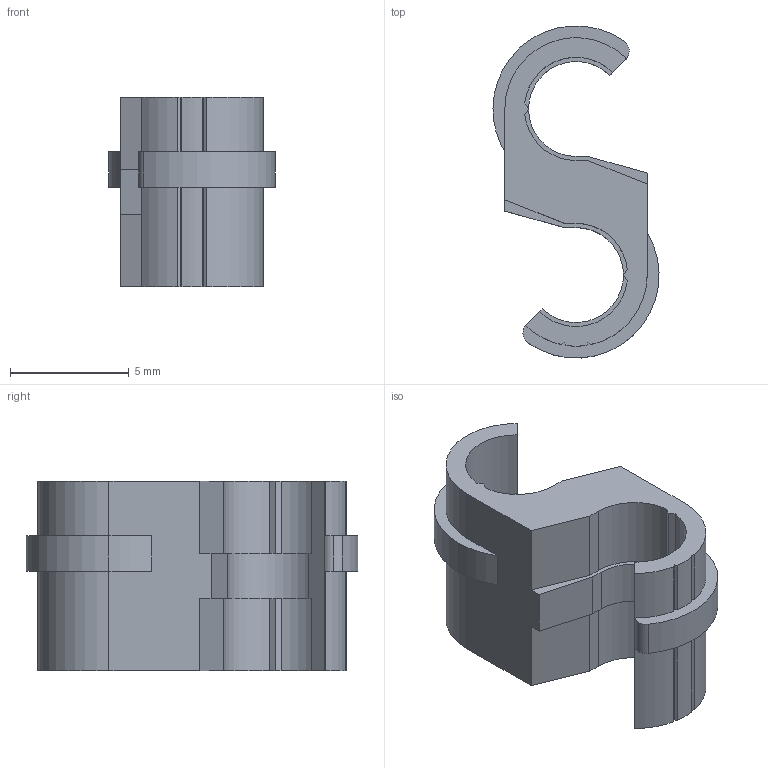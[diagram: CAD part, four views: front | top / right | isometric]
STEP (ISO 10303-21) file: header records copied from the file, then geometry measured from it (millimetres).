
FILE_DESCRIPTION (( 'STEP AP203' ), '1' );
FILE_NAME ('FX-AT2.STEP', '2005-09-08T02:50:07', ( '' ), ( '' ), 'SwSTEP 2.0', 'SolidWorks 2004073', '' );
FILE_SCHEMA (( 'CONFIG_CONTROL_DESIGN' ));
Length unit declared in the file: millimetre
Products named in the file (1): FX-AT2
Bounding box: 7 x 13.99 x 8 mm (x, y, z)
Volume: 255 mm3; surface area: 466.4 mm2
Topology: 1 solids, 1 shells, 71 faces, 197 edges, 128 vertices
Faces by surface type: plane 46, cylinder 25
Entity records: 2344 total; most frequent: CARTESIAN_POINT 397, DIRECTION 397, ORIENTED_EDGE 394, EDGE_CURVE 197, LINE 141, VECTOR 141, VERTEX_POINT 128, AXIS2_PLACEMENT_3D 128
